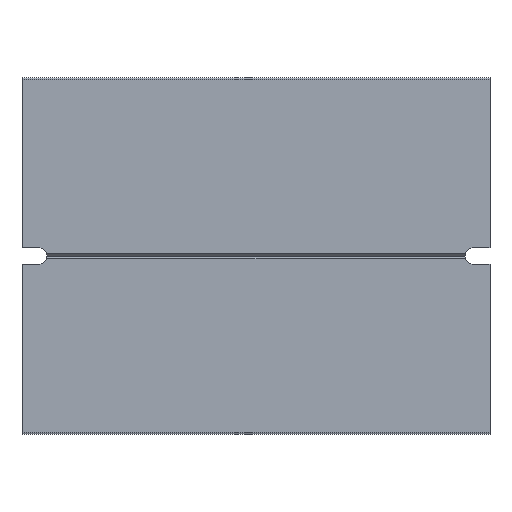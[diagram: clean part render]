
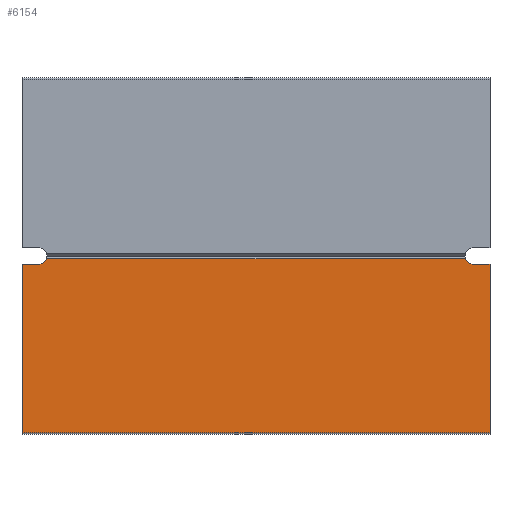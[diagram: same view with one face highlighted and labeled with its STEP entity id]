
A CAD part, front view. The second image highlights one B-rep face of the part: STEP entity #6154.
In plain terms, the highlighted planar face has unit normal (0, -1, 0).
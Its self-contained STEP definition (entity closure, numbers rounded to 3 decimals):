
#321 = CARTESIAN_POINT ( 'NONE',  ( 119.998, 50.723, 50.632 ) ) ;
#556 = AXIS2_PLACEMENT_3D ( 'NONE', #23197, #10318, #2503 ) ;
#2503 = DIRECTION ( 'NONE',  ( 1., 0., 0. ) ) ;
#4284 = EDGE_CURVE ( 'NONE', #36276, #5949, #52465, .T. ) ;
#5206 = PLANE ( 'NONE',  #8248 ) ;
#5949 = VERTEX_POINT ( 'NONE', #36428 ) ;
#6020 = DIRECTION ( 'NONE',  ( 1., 0., 0. ) ) ;
#6154 = ADVANCED_FACE ( 'NONE', ( #31134 ), #5206, .T. ) ;
#6908 = CARTESIAN_POINT ( 'NONE',  ( -13.352, 50.723, 50.632 ) ) ;
#8243 = ORIENTED_EDGE ( 'NONE', *, *, #19830, .T. ) ;
#8248 = AXIS2_PLACEMENT_3D ( 'NONE', #18860, #44123, #6020 ) ;
#10108 = VECTOR ( 'NONE', #30013, 1000. ) ;
#10318 = DIRECTION ( 'NONE',  ( 0., 1., 0. ) ) ;
#10520 = DIRECTION ( 'NONE',  ( 0., 0., -1. ) ) ;
#10821 = AXIS2_PLACEMENT_3D ( 'NONE', #38643, #41510, #37333 ) ;
#10941 = CARTESIAN_POINT ( 'NONE',  ( -8.589, 50.723, 98.689 ) ) ;
#12041 = ORIENTED_EDGE ( 'NONE', *, *, #51262, .F. ) ;
#15047 = DIRECTION ( 'NONE',  ( -1., 0., 0. ) ) ;
#16790 = VERTEX_POINT ( 'NONE', #54256 ) ;
#17575 = VECTOR ( 'NONE', #10520, 1000. ) ;
#18375 = CARTESIAN_POINT ( 'NONE',  ( 119.998, 50.723, 98.689 ) ) ;
#18860 = CARTESIAN_POINT ( 'NONE',  ( -13.352, 50.723, 100.289 ) ) ;
#19249 = VERTEX_POINT ( 'NONE', #20412 ) ;
#19390 = LINE ( 'NONE', #48530, #39402 ) ;
#19479 = EDGE_LOOP ( 'NONE', ( #48514, #34624, #38546, #46572, #8243, #34121, #12041, #50446 ) ) ;
#19830 = EDGE_CURVE ( 'NONE', #40981, #19249, #51032, .T. ) ;
#20185 = VERTEX_POINT ( 'NONE', #321 ) ;
#20412 = CARTESIAN_POINT ( 'NONE',  ( -13.352, 50.723, 50.632 ) ) ;
#22856 = DIRECTION ( 'NONE',  ( 1., 0., 0. ) ) ;
#23197 = CARTESIAN_POINT ( 'NONE',  ( -8.589, 50.723, 101.051 ) ) ;
#23398 = DIRECTION ( 'NONE',  ( 1., 0., 0. ) ) ;
#23606 = DIRECTION ( 'NONE',  ( -1., 0., 0. ) ) ;
#25299 = CARTESIAN_POINT ( 'NONE',  ( -13.352, 50.723, 100.289 ) ) ;
#26200 = CARTESIAN_POINT ( 'NONE',  ( -13.352, 50.723, 100.289 ) ) ;
#28334 = EDGE_CURVE ( 'NONE', #19249, #20185, #44447, .T. ) ;
#30013 = DIRECTION ( 'NONE',  ( 0., 0., -1. ) ) ;
#31134 = FACE_OUTER_BOUND ( 'NONE', #19479, .T. ) ;
#31684 = VECTOR ( 'NONE', #15047, 1000. ) ;
#31735 = LINE ( 'NONE', #48590, #17575 ) ;
#34121 = ORIENTED_EDGE ( 'NONE', *, *, #28334, .T. ) ;
#34217 = CARTESIAN_POINT ( 'NONE',  ( -13.352, 50.723, 98.689 ) ) ;
#34408 = CARTESIAN_POINT ( 'NONE',  ( -6.353, 50.723, 100.289 ) ) ;
#34624 = ORIENTED_EDGE ( 'NONE', *, *, #4284, .F. ) ;
#34868 = CIRCLE ( 'NONE', #10821, 2.362 ) ;
#36276 = VERTEX_POINT ( 'NONE', #34408 ) ;
#36428 = CARTESIAN_POINT ( 'NONE',  ( 113., 50.723, 100.289 ) ) ;
#36448 = EDGE_CURVE ( 'NONE', #36276, #43760, #53789, .T. ) ;
#37333 = DIRECTION ( 'NONE',  ( -1., 0., 0. ) ) ;
#38546 = ORIENTED_EDGE ( 'NONE', *, *, #36448, .T. ) ;
#38643 = CARTESIAN_POINT ( 'NONE',  ( 115.236, 50.723, 101.051 ) ) ;
#39402 = VECTOR ( 'NONE', #23606, 1000. ) ;
#40098 = EDGE_CURVE ( 'NONE', #43760, #40981, #19390, .T. ) ;
#40981 = VERTEX_POINT ( 'NONE', #34217 ) ;
#41510 = DIRECTION ( 'NONE',  ( 0., 1., 0. ) ) ;
#41744 = EDGE_CURVE ( 'NONE', #54621, #16790, #53049, .T. ) ;
#43760 = VERTEX_POINT ( 'NONE', #10941 ) ;
#44123 = DIRECTION ( 'NONE',  ( 0., -1., 0. ) ) ;
#44447 = LINE ( 'NONE', #6908, #45909 ) ;
#45909 = VECTOR ( 'NONE', #23398, 1000. ) ;
#46572 = ORIENTED_EDGE ( 'NONE', *, *, #40098, .T. ) ;
#46595 = EDGE_CURVE ( 'NONE', #16790, #5949, #34868, .T. ) ;
#48514 = ORIENTED_EDGE ( 'NONE', *, *, #46595, .T. ) ;
#48530 = CARTESIAN_POINT ( 'NONE',  ( -13.352, 50.723, 98.689 ) ) ;
#48590 = CARTESIAN_POINT ( 'NONE',  ( 119.998, 50.723, 100.289 ) ) ;
#50446 = ORIENTED_EDGE ( 'NONE', *, *, #41744, .T. ) ;
#51032 = LINE ( 'NONE', #25299, #10108 ) ;
#51262 = EDGE_CURVE ( 'NONE', #54621, #20185, #31735, .T. ) ;
#51616 = VECTOR ( 'NONE', #22856, 1000. ) ;
#52465 = LINE ( 'NONE', #26200, #51616 ) ;
#53049 = LINE ( 'NONE', #18375, #31684 ) ;
#53789 = CIRCLE ( 'NONE', #556, 2.362 ) ;
#54026 = CARTESIAN_POINT ( 'NONE',  ( 119.998, 50.723, 98.689 ) ) ;
#54256 = CARTESIAN_POINT ( 'NONE',  ( 115.236, 50.723, 98.689 ) ) ;
#54621 = VERTEX_POINT ( 'NONE', #54026 ) ;
